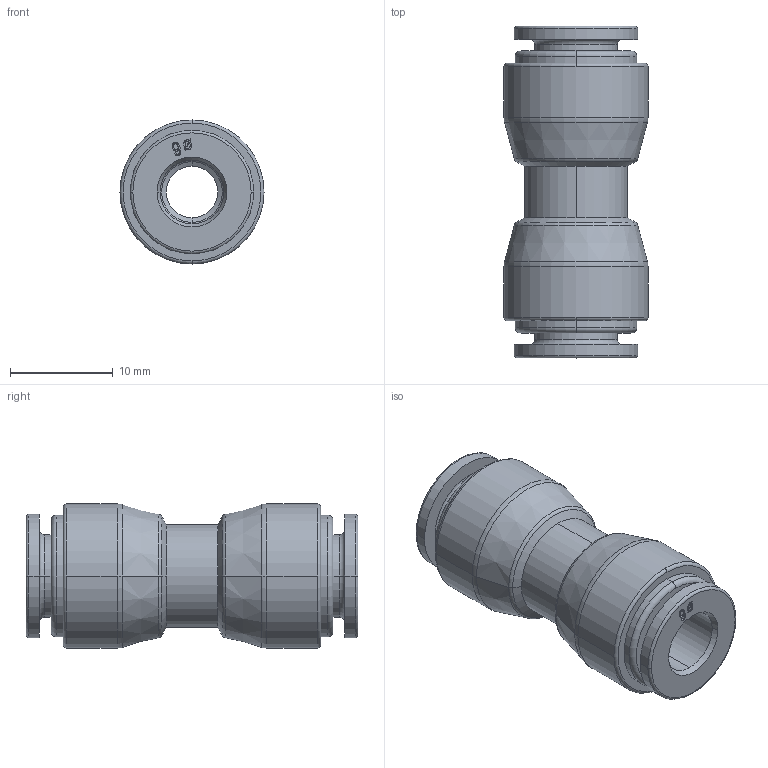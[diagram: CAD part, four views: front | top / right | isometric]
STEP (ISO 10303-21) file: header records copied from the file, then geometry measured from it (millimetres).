
FILE_DESCRIPTION (( 'STEP AP214' ), '1' );
FILE_NAME ('5304000004A.STEP', '2023-03-06T10:31:44', ( '' ), ( '' ), 'SwSTEP 2.0', 'SolidWorks 2020', '' );
FILE_SCHEMA (( 'AUTOMOTIVE_DESIGN' ));
Length unit declared in the file: millimetre
Products named in the file (1): 5304000004A
Bounding box: 14 x 32.24 x 14 mm (x, y, z)
Volume: 2938.5 mm3; surface area: 2375.5 mm2
Topology: 1 solids, 1 shells, 160 faces, 386 edges, 244 vertices
Faces by surface type: bspline 56, plane 36, torus 28, cylinder 24, cone 16
Entity records: 8848 total; most frequent: CARTESIAN_POINT 3599, ORIENTED_EDGE 772, DIRECTION 608, EDGE_CURVE 386, VERTEX_POINT 244, AXIS2_PLACEMENT_3D 229, EDGE_LOOP 178, UNCERTAINTY_MEASURE_WITH_UNIT 163
